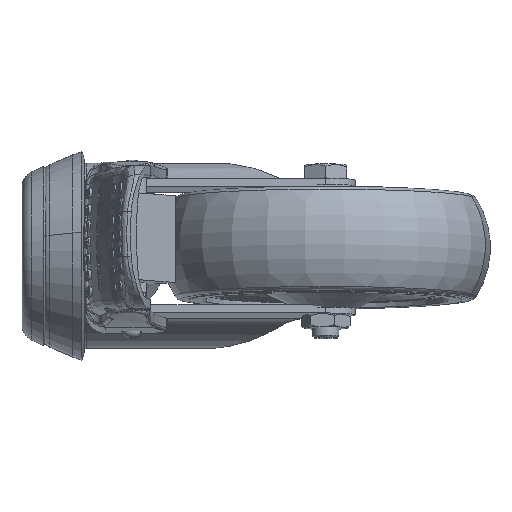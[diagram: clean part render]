
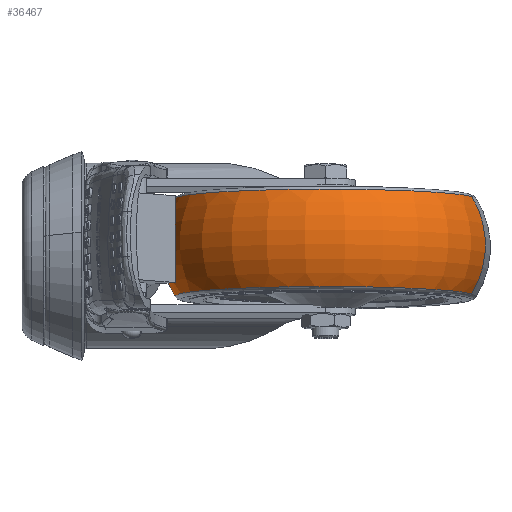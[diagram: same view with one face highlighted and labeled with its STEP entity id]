
A CAD part, left-side view. The second image highlights one B-rep face of the part: STEP entity #36467.
In plain terms, the highlighted toroidal (fillet/blend) face has major radius 22 mm and minor radius 28 mm.
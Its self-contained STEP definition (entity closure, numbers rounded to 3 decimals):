
#36305 = EDGE_CURVE ( 'NONE', #36363, #36365, #48945, .T. ) ;
#36345 = EDGE_CURVE ( 'NONE', #36363, #36361, #49022, .T. ) ;
#36360 = VERTEX_POINT ( 'NONE', #49088 ) ;
#36361 = VERTEX_POINT ( 'NONE', #49056 ) ;
#36363 = VERTEX_POINT ( 'NONE', #49062 ) ;
#36365 = VERTEX_POINT ( 'NONE', #49049 ) ;
#36403 = EDGE_CURVE ( 'NONE', #36365, #36360, #49182, .T. ) ;
#36418 = EDGE_LOOP ( 'NONE', ( #36469, #36427, #36468, #36471 ) ) ;
#36423 = EDGE_CURVE ( 'NONE', #36361, #36360, #49229, .T. ) ;
#36427 = ORIENTED_EDGE ( 'NONE', *, *, #36305, .T. ) ;
#36467 = ADVANCED_FACE ( 'NONE', ( #49304 ), #49289, .T. ) ;
#36468 = ORIENTED_EDGE ( 'NONE', *, *, #36403, .T. ) ;
#36469 = ORIENTED_EDGE ( 'NONE', *, *, #36345, .F. ) ;
#36471 = ORIENTED_EDGE ( 'NONE', *, *, #36423, .F. ) ;
#48941 = DIRECTION ( 'NONE',  ( 0.243, 0.97, -0.016 ) ) ;
#48942 = DIRECTION ( 'NONE',  ( -0.064, 0., -0.998 ) ) ;
#48943 = CARTESIAN_POINT ( 'NONE',  ( 86.241, -20.883, 221.799 ) ) ;
#48944 = AXIS2_PLACEMENT_3D ( 'NONE', #48943, #48942, #48941 ) ;
#48945 = CIRCLE ( 'NONE', #48944, 45.764 ) ;
#49005 = DIRECTION ( 'NONE',  ( 0.244, 0.97, 0. ) ) ;
#49006 = DIRECTION ( 'NONE',  ( 0.968, -0.243, -0.062 ) ) ;
#49007 = CARTESIAN_POINT ( 'NONE',  ( 79.947, -42.222, 207.367 ) ) ;
#49022 = CIRCLE ( 'NONE', #49033, 28. ) ;
#49033 = AXIS2_PLACEMENT_3D ( 'NONE', #49007, #49006, #49005 ) ;
#49049 = CARTESIAN_POINT ( 'NONE',  ( 97.353, 23.506, 221.083 ) ) ;
#49056 = CARTESIAN_POINT ( 'NONE',  ( 73.224, -65.272, 192.962 ) ) ;
#49062 = CARTESIAN_POINT ( 'NONE',  ( 75.129, -65.272, 222.516 ) ) ;
#49088 = CARTESIAN_POINT ( 'NONE',  ( 95.448, 23.506, 191.529 ) ) ;
#49182 = CIRCLE ( 'NONE', #49189, 28. ) ;
#49189 = AXIS2_PLACEMENT_3D ( 'NONE', #49237, #49232, #49231 ) ;
#49229 = CIRCLE ( 'NONE', #49252, 45.764 ) ;
#49231 = DIRECTION ( 'NONE',  ( -0.244, -0.97, 0. ) ) ;
#49232 = DIRECTION ( 'NONE',  ( -0.968, 0.243, 0.062 ) ) ;
#49237 = CARTESIAN_POINT ( 'NONE',  ( 90.63, 0.456, 206.678 ) ) ;
#49251 = DIRECTION ( 'NONE',  ( 0.243, 0.97, -0.016 ) ) ;
#49252 = AXIS2_PLACEMENT_3D ( 'NONE', #49256, #49269, #49251 ) ;
#49256 = CARTESIAN_POINT ( 'NONE',  ( 84.336, -20.883, 192.245 ) ) ;
#49269 = DIRECTION ( 'NONE',  ( -0.064, 0., -0.998 ) ) ;
#49276 = DIRECTION ( 'NONE',  ( 0.243, 0.97, -0.016 ) ) ;
#49283 = CARTESIAN_POINT ( 'NONE',  ( 85.288, -20.883, 207.022 ) ) ;
#49284 = DIRECTION ( 'NONE',  ( -0.064, 0., -0.998 ) ) ;
#49289 = TOROIDAL_SURFACE ( 'NONE', #49303, 22., 28. ) ;
#49303 = AXIS2_PLACEMENT_3D ( 'NONE', #49283, #49284, #49276 ) ;
#49304 = FACE_OUTER_BOUND ( 'NONE', #36418, .T. ) ;
